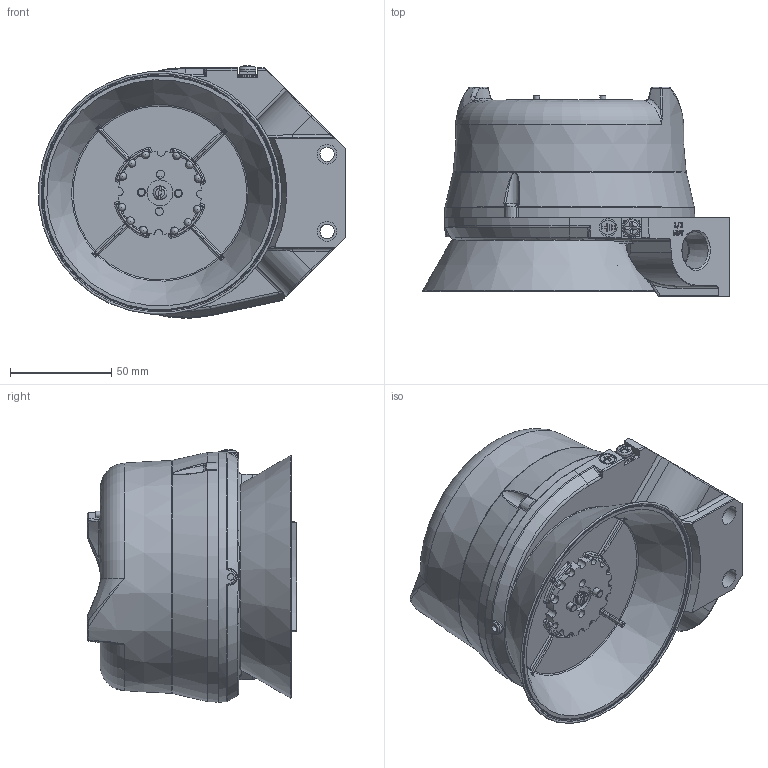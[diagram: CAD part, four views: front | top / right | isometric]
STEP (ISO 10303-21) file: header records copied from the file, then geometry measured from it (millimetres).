
FILE_DESCRIPTION(/* description */ ('HOUSING QUARTZ 2 NPT SILVER'),/* implementation_level */ '2;1');
FILE_NAME(/* name */ 'C:\vault\Engineering Documents\Work In Progress\BKunz\Platform STP files for Website\Updated with conduits\QX Updated STP.stp',/* time_stamp */ '2017-08-08T11:22:00-05:00',/* author */ ('ffmkunzbob'),/* organization */ (''),/* preprocessor_version */ 'ST-DEVELOPER v16.1',/* originating_system */ 'Autodesk Inventor 2016',/* authorisation */ '');
FILE_SCHEMA (('AUTOMOTIVE_DESIGN { 1 0 10303 214 3 1 1 }'));
Length unit declared in the file: inch
Products named in the file (31): 401698; 421027; 431091; 428088; 408988; 410005; 405006; 415001; 406026; 421001; 600001; 407003; 402007; 456016; 603890; 404032; 416139; 603158; 403042; 421015; 403045; 419058; 408015; 603869; 411129; 414178; 402177; 402196; 402216; 420468; QX Updated STP
Assembly tree (39 placements, depth 4):
  QX Updated STP
    401698
    421027
    431091  x2
    428088  x2
    408988  x2
    600001
      410005
      405006  x2
      415001
      406026  x2
      421001  x2
    407003  x2
    603890
      402007
      456016  x2
    603158
      404032
      416139
    603869
      403045
        403042
        421015  x2
      419058
      408015
    411129
    414178
    402216
      402196
        402177
    420468
Bounding box: 151.42 x 103.45 x 124.58 mm (x, y, z)
Volume: 276781.8 mm3; surface area: 259016.8 mm2
Topology: 31 solids, 34 shells, 3630 faces, 9841 edges, 6240 vertices
Faces by surface type: plane 2340, cylinder 584, bspline 250, cone 196, torus 191, sphere 69
Full cylindrical faces by diameter (mm): 1.575 x28, 1.651 x2, 2.159 x10, 2.642 x3, 3.251 x4, 3.302 x2, 3.429 x2, 3.505 x1, 3.581 x2, 3.658 x10, 3.937 x2, 3.969 x2, 3.988 x2, 4.166 x2, 4.445 x2, 6.096 x2, 6.223 x2, 6.35 x3, 6.375 x2, 6.38 x1, 6.452 x2, 6.858 x1, 7.137 x5, 7.925 x6, 8.179 x2, 8.661 x1, 9.525 x4, 9.55 x1, 9.652 x2, 10.287 x2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
Entity records: 94860 total; most frequent: CARTESIAN_POINT 25274, ORIENTED_EDGE 14392, DIRECTION 13558, EDGE_CURVE 7196, VERTEX_POINT 4753, LINE 4660, VECTOR 4660, AXIS2_PLACEMENT_3D 4449
